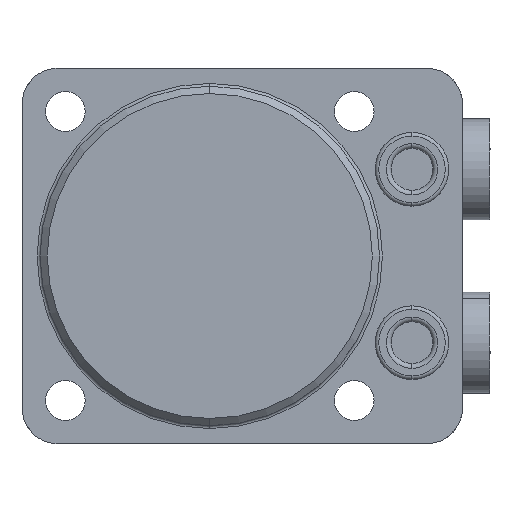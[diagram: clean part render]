
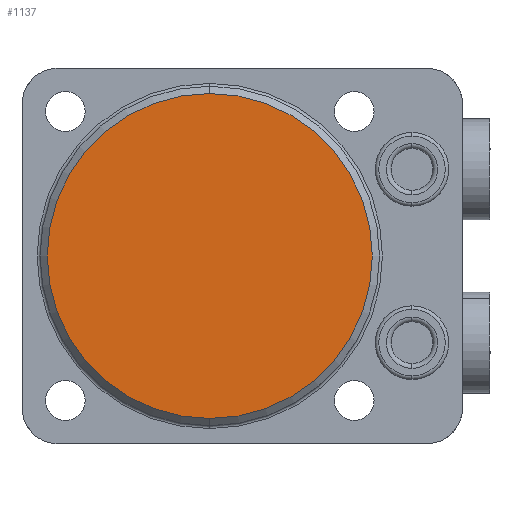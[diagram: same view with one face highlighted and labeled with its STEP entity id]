
A CAD part, front view. The second image highlights one B-rep face of the part: STEP entity #1137.
In plain terms, the highlighted planar face has unit normal (0, -1, 0).
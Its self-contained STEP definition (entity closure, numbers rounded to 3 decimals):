
#607=PLANE('',#3422);
#1137=ADVANCED_FACE('',(#1340),#607,.F.);
#1340=FACE_OUTER_BOUND('',#1511,.T.);
#1511=EDGE_LOOP('',(#1883,#1884));
#1883=ORIENTED_EDGE('',*,*,#2855,.T.);
#1884=ORIENTED_EDGE('',*,*,#2796,.T.);
#2541=VERTEX_POINT('',#4927);
#2542=VERTEX_POINT('',#4928);
#2796=EDGE_CURVE('',#2541,#2542,#3136,.T.);
#2855=EDGE_CURVE('',#2542,#2541,#3157,.T.);
#3136=CIRCLE('',#3389,22.5);
#3157=CIRCLE('',#3421,22.5);
#3389=AXIS2_PLACEMENT_3D('',#4926,#3935,#3936);
#3421=AXIS2_PLACEMENT_3D('',#5118,#4017,#4018);
#3422=AXIS2_PLACEMENT_3D('',#5119,#4019,#4020);
#3935=DIRECTION('',(0.,-1.,0.));
#3936=DIRECTION('',(0.,0.,1.));
#4017=DIRECTION('',(0.,-1.,0.));
#4018=DIRECTION('',(0.,0.,1.));
#4019=DIRECTION('',(0.,1.,0.));
#4020=DIRECTION('',(0.,0.,-1.));
#4926=CARTESIAN_POINT('',(0.,-41.,0.));
#4927=CARTESIAN_POINT('',(0.,-41.,-22.5));
#4928=CARTESIAN_POINT('',(0.,-41.,22.5));
#5118=CARTESIAN_POINT('',(0.,-41.,0.));
#5119=CARTESIAN_POINT('',(0.,-41.,0.));
